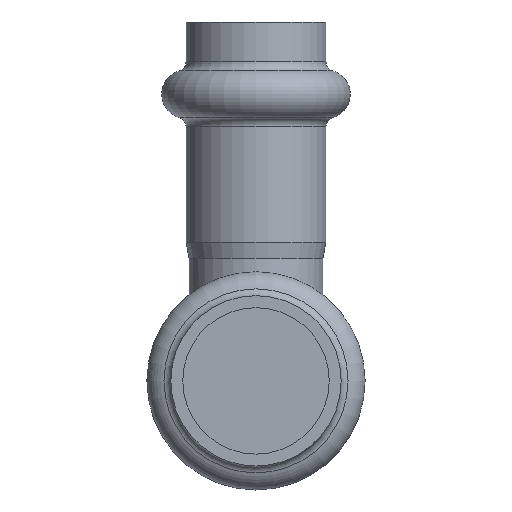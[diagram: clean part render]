
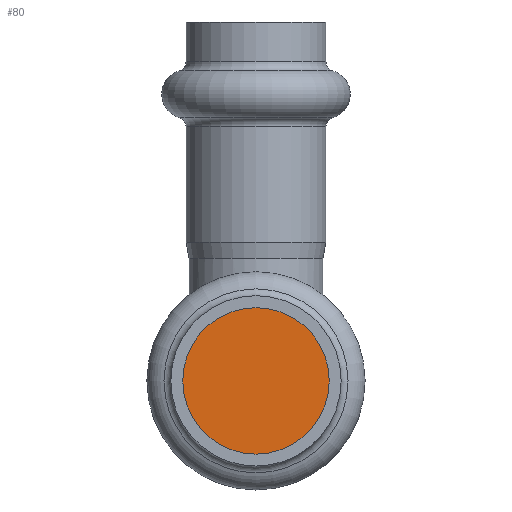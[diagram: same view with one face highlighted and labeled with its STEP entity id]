
A CAD part, front view. The second image highlights one B-rep face of the part: STEP entity #80.
In plain terms, the highlighted planar face has unit normal (0, -1, 0).
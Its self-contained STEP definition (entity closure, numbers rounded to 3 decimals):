
#80=ADVANCED_FACE('',(#325),#327,.T.);
#325=FACE_BOUND('',#326,.T.);
#326=EDGE_LOOP('',(#395));
#327=PLANE('',#328);
#328=AXIS2_PLACEMENT_3D('',#329,#330,#331);
#329=CARTESIAN_POINT('',(0.,-34.354,0.));
#330=DIRECTION('',(0.,-1.,0.));
#331=DIRECTION('',(0.,0.,-1.));
#395=ORIENTED_EDGE('',*,*,#424,.T.);
#424=EDGE_CURVE('',#480,#480,#481,.F.);
#480=VERTEX_POINT('',#885);
#481=CIRCLE('',#886,7.65);
#885=CARTESIAN_POINT('',(0.,-34.354,7.65));
#886=AXIS2_PLACEMENT_3D('',#887,#888,#889);
#887=CARTESIAN_POINT('',(0.,-34.354,0.));
#888=DIRECTION('',(0.,1.,0.));
#889=DIRECTION('',(0.,0.,1.));
